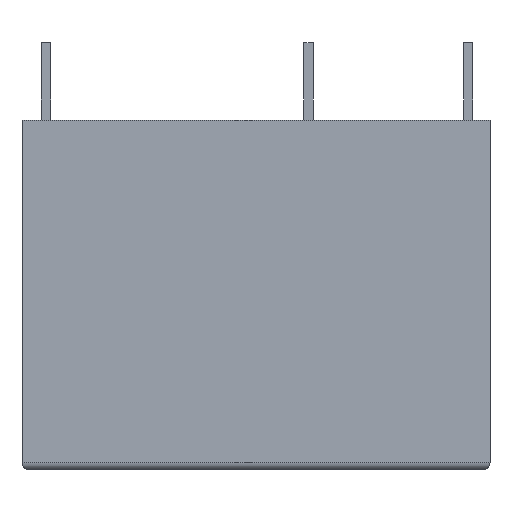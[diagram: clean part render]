
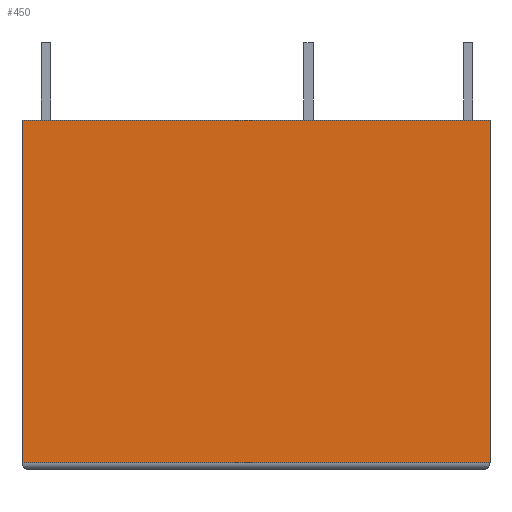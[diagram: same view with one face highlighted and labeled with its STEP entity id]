
A CAD part, front view. The second image highlights one B-rep face of the part: STEP entity #450.
In plain terms, the highlighted planar face has unit normal (0, -1, 0).
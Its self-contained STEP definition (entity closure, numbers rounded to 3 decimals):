
#71 = PLANE('',#72);
#72 = AXIS2_PLACEMENT_3D('',#73,#74,#75);
#73 = CARTESIAN_POINT('',(0.,0.,0.));
#74 = DIRECTION('',(-1.,0.,0.));
#75 = DIRECTION('',(0.,1.,0.));
#99 = PLANE('',#100);
#100 = AXIS2_PLACEMENT_3D('',#101,#102,#103);
#101 = CARTESIAN_POINT('',(10.25,3.5,15.3));
#102 = DIRECTION('',(-0.,-0.,-1.));
#103 = DIRECTION('',(-1.,0.,0.));
#127 = PLANE('',#128);
#128 = AXIS2_PLACEMENT_3D('',#129,#130,#131);
#129 = CARTESIAN_POINT('',(20.5,7.,0.));
#130 = DIRECTION('',(1.,0.,0.));
#131 = DIRECTION('',(0.,-1.,0.));
#168 = EDGE_CURVE('',#169,#171,#173,.T.);
#169 = VERTEX_POINT('',#170);
#170 = CARTESIAN_POINT('',(0.,0.,0.3));
#171 = VERTEX_POINT('',#172);
#172 = CARTESIAN_POINT('',(0.,0.,15.3));
#173 = SURFACE_CURVE('',#174,(#178,#185),.PCURVE_S1.);
#174 = LINE('',#175,#176);
#175 = CARTESIAN_POINT('',(0.,0.,0.));
#176 = VECTOR('',#177,1.);
#177 = DIRECTION('',(0.,0.,1.));
#178 = PCURVE('',#71,#179);
#179 = DEFINITIONAL_REPRESENTATION('',(#180),#184);
#180 = LINE('',#181,#182);
#181 = CARTESIAN_POINT('',(0.,0.));
#182 = VECTOR('',#183,1.);
#183 = DIRECTION('',(0.,-1.));
#184 = ( GEOMETRIC_REPRESENTATION_CONTEXT(2) 
PARAMETRIC_REPRESENTATION_CONTEXT() REPRESENTATION_CONTEXT('2D SPACE',''
  ) );
#185 = PCURVE('',#186,#191);
#186 = PLANE('',#187);
#187 = AXIS2_PLACEMENT_3D('',#188,#189,#190);
#188 = CARTESIAN_POINT('',(20.5,0.,0.));
#189 = DIRECTION('',(0.,-1.,0.));
#190 = DIRECTION('',(-1.,0.,0.));
#191 = DEFINITIONAL_REPRESENTATION('',(#192),#196);
#192 = LINE('',#193,#194);
#193 = CARTESIAN_POINT('',(20.5,0.));
#194 = VECTOR('',#195,1.);
#195 = DIRECTION('',(0.,-1.));
#196 = ( GEOMETRIC_REPRESENTATION_CONTEXT(2) 
PARAMETRIC_REPRESENTATION_CONTEXT() REPRESENTATION_CONTEXT('2D SPACE',''
  ) );
#358 = VERTEX_POINT('',#359);
#359 = CARTESIAN_POINT('',(20.5,0.,15.3));
#380 = EDGE_CURVE('',#358,#171,#381,.T.);
#381 = SURFACE_CURVE('',#382,(#386,#393),.PCURVE_S1.);
#382 = LINE('',#383,#384);
#383 = CARTESIAN_POINT('',(20.5,0.,15.3));
#384 = VECTOR('',#385,1.);
#385 = DIRECTION('',(-1.,0.,0.));
#386 = PCURVE('',#99,#387);
#387 = DEFINITIONAL_REPRESENTATION('',(#388),#392);
#388 = LINE('',#389,#390);
#389 = CARTESIAN_POINT('',(-10.25,-3.5));
#390 = VECTOR('',#391,1.);
#391 = DIRECTION('',(1.,0.));
#392 = ( GEOMETRIC_REPRESENTATION_CONTEXT(2) 
PARAMETRIC_REPRESENTATION_CONTEXT() REPRESENTATION_CONTEXT('2D SPACE',''
  ) );
#393 = PCURVE('',#186,#394);
#394 = DEFINITIONAL_REPRESENTATION('',(#395),#399);
#395 = LINE('',#396,#397);
#396 = CARTESIAN_POINT('',(0.,-15.3));
#397 = VECTOR('',#398,1.);
#398 = DIRECTION('',(1.,0.));
#399 = ( GEOMETRIC_REPRESENTATION_CONTEXT(2) 
PARAMETRIC_REPRESENTATION_CONTEXT() REPRESENTATION_CONTEXT('2D SPACE',''
  ) );
#407 = EDGE_CURVE('',#408,#358,#410,.T.);
#408 = VERTEX_POINT('',#409);
#409 = CARTESIAN_POINT('',(20.5,0.,0.3));
#410 = SURFACE_CURVE('',#411,(#415,#422),.PCURVE_S1.);
#411 = LINE('',#412,#413);
#412 = CARTESIAN_POINT('',(20.5,0.,0.));
#413 = VECTOR('',#414,1.);
#414 = DIRECTION('',(0.,0.,1.));
#415 = PCURVE('',#127,#416);
#416 = DEFINITIONAL_REPRESENTATION('',(#417),#421);
#417 = LINE('',#418,#419);
#418 = CARTESIAN_POINT('',(7.,0.));
#419 = VECTOR('',#420,1.);
#420 = DIRECTION('',(0.,-1.));
#421 = ( GEOMETRIC_REPRESENTATION_CONTEXT(2) 
PARAMETRIC_REPRESENTATION_CONTEXT() REPRESENTATION_CONTEXT('2D SPACE',''
  ) );
#422 = PCURVE('',#186,#423);
#423 = DEFINITIONAL_REPRESENTATION('',(#424),#428);
#424 = LINE('',#425,#426);
#425 = CARTESIAN_POINT('',(0.,-0.));
#426 = VECTOR('',#427,1.);
#427 = DIRECTION('',(0.,-1.));
#428 = ( GEOMETRIC_REPRESENTATION_CONTEXT(2) 
PARAMETRIC_REPRESENTATION_CONTEXT() REPRESENTATION_CONTEXT('2D SPACE',''
  ) );
#450 = ADVANCED_FACE('',(#451),#186,.T.);
#451 = FACE_BOUND('',#452,.T.);
#452 = EDGE_LOOP('',(#453,#454,#455,#456));
#453 = ORIENTED_EDGE('',*,*,#407,.T.);
#454 = ORIENTED_EDGE('',*,*,#380,.T.);
#455 = ORIENTED_EDGE('',*,*,#168,.F.);
#456 = ORIENTED_EDGE('',*,*,#457,.F.);
#457 = EDGE_CURVE('',#408,#169,#458,.T.);
#458 = SURFACE_CURVE('',#459,(#463,#470),.PCURVE_S1.);
#459 = LINE('',#460,#461);
#460 = CARTESIAN_POINT('',(20.5,0.,0.3));
#461 = VECTOR('',#462,1.);
#462 = DIRECTION('',(-1.,0.,0.));
#463 = PCURVE('',#186,#464);
#464 = DEFINITIONAL_REPRESENTATION('',(#465),#469);
#465 = LINE('',#466,#467);
#466 = CARTESIAN_POINT('',(0.,-0.3));
#467 = VECTOR('',#468,1.);
#468 = DIRECTION('',(1.,0.));
#469 = ( GEOMETRIC_REPRESENTATION_CONTEXT(2) 
PARAMETRIC_REPRESENTATION_CONTEXT() REPRESENTATION_CONTEXT('2D SPACE',''
  ) );
#470 = PCURVE('',#471,#476);
#471 = CYLINDRICAL_SURFACE('',#472,0.3);
#472 = AXIS2_PLACEMENT_3D('',#473,#474,#475);
#473 = CARTESIAN_POINT('',(20.5,0.3,0.3));
#474 = DIRECTION('',(-1.,0.,0.));
#475 = DIRECTION('',(0.,-1.,0.));
#476 = DEFINITIONAL_REPRESENTATION('',(#477),#481);
#477 = LINE('',#478,#479);
#478 = CARTESIAN_POINT('',(-0.,0.));
#479 = VECTOR('',#480,1.);
#480 = DIRECTION('',(-0.,1.));
#481 = ( GEOMETRIC_REPRESENTATION_CONTEXT(2) 
PARAMETRIC_REPRESENTATION_CONTEXT() REPRESENTATION_CONTEXT('2D SPACE',''
  ) );
